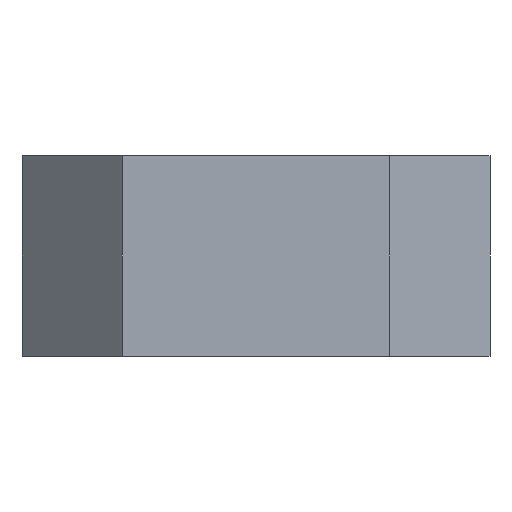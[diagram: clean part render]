
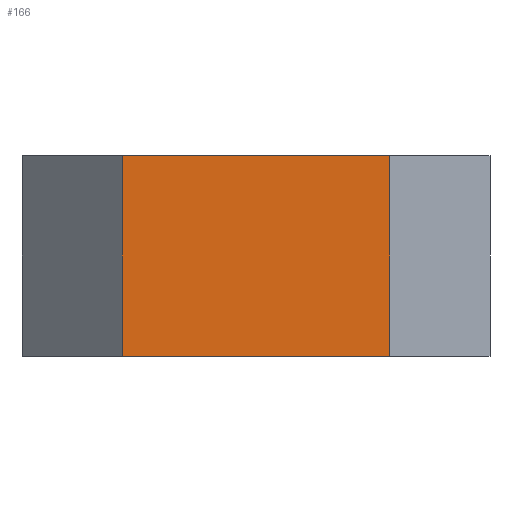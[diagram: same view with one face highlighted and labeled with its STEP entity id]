
A CAD part, left-side view. The second image highlights one B-rep face of the part: STEP entity #166.
In plain terms, the highlighted planar face has unit normal (-1, 0, 0).
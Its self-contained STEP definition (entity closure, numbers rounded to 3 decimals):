
#166=ADVANCED_FACE('0:623',(#315),#316,.T.);
#315=FACE_OUTER_BOUND('',#470,.T.);
#316=PLANE('',#471);
#470=EDGE_LOOP('',(#1021,#1022,#1023,#1024));
#471=AXIS2_PLACEMENT_3D('',#1025,#1026,#1027);
#1021=ORIENTED_EDGE('',*,*,#1287,.F.);
#1022=ORIENTED_EDGE('',*,*,#1288,.F.);
#1023=ORIENTED_EDGE('',*,*,#1285,.F.);
#1024=ORIENTED_EDGE('',*,*,#1242,.T.);
#1025=CARTESIAN_POINT('',(-105.0,0.0,0.0));
#1026=DIRECTION('',(-1.0,-0.0,0.0));
#1027=DIRECTION('',(0.0,-1.0,-0.0));
#1242=EDGE_CURVE('0:650',#1543,#1541,#1544,.F.);
#1285=EDGE_CURVE('0:5999',#1543,#1610,#1611,.T.);
#1287=EDGE_CURVE('0:8302',#1613,#1541,#1614,.T.);
#1288=EDGE_CURVE('0:656',#1610,#1613,#1615,.T.);
#1541=VERTEX_POINT('',#1947);
#1543=VERTEX_POINT('',#1950);
#1544=LINE('',#1951,#1952);
#1610=VERTEX_POINT('',#2054);
#1611=LINE('',#2055,#2056);
#1613=VERTEX_POINT('',#2059);
#1614=LINE('',#2060,#2061);
#1615=LINE('',#2062,#2063);
#1947=CARTESIAN_POINT('',(-105.0,40.0,60.0));
#1950=CARTESIAN_POINT('',(-105.0,-40.0,60.0));
#1951=CARTESIAN_POINT('',(-105.0,0.0,60.0));
#1952=VECTOR('',#2345,1.0);
#2054=CARTESIAN_POINT('',(-105.0,-40.0,0.0));
#2055=CARTESIAN_POINT('',(-105.0,-40.0,0.0));
#2056=VECTOR('',#2400,1.0);
#2059=CARTESIAN_POINT('',(-105.0,40.0,0.0));
#2060=CARTESIAN_POINT('',(-105.0,40.0,0.0));
#2061=VECTOR('',#2402,1.0);
#2062=CARTESIAN_POINT('',(-105.0,-70.0,0.0));
#2063=VECTOR('',#2403,1.0);
#2345=DIRECTION('',(0.0,-1.0,0.0));
#2400=DIRECTION('',(-0.0,-0.0,-1.0));
#2402=DIRECTION('',(0.0,-0.0,1.0));
#2403=DIRECTION('',(0.0,1.0,0.0));
